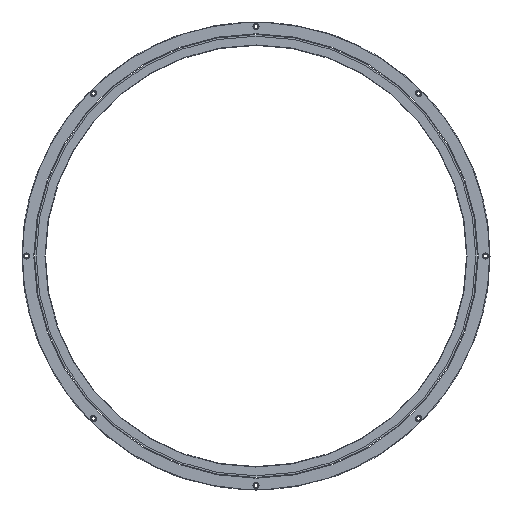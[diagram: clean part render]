
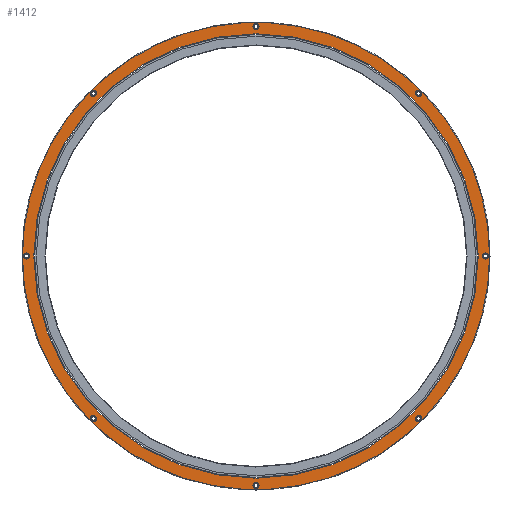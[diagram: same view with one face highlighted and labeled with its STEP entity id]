
A CAD part, front view. The second image highlights one B-rep face of the part: STEP entity #1412.
In plain terms, the highlighted planar face has unit normal (0, -1, 0).
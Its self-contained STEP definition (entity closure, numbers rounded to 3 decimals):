
#61=CARTESIAN_POINT('',(0.,0.,0.));
#62=DIRECTION('',(0.,-1.,0.));
#63=DIRECTION('',(-1.,0.,0.));
#64=AXIS2_PLACEMENT_3D('',#61,#62,#63);
#66=CARTESIAN_POINT('',(0.,0.,0.));
#67=DIRECTION('',(0.,1.,0.));
#68=DIRECTION('',(-1.,0.,0.));
#69=AXIS2_PLACEMENT_3D('',#66,#67,#68);
#71=CARTESIAN_POINT('',(-245.5,0.,0.));
#72=DIRECTION('',(0.,1.,0.));
#73=DIRECTION('',(1.,0.,0.));
#74=AXIS2_PLACEMENT_3D('',#71,#72,#73);
#76=CARTESIAN_POINT('',(-245.5,0.,0.));
#77=DIRECTION('',(0.,1.,0.));
#78=DIRECTION('',(-1.,0.,0.));
#79=AXIS2_PLACEMENT_3D('',#76,#77,#78);
#81=CARTESIAN_POINT('',(-173.595,0.,173.595));
#82=DIRECTION('',(0.,1.,0.));
#83=DIRECTION('',(0.707,0.,-0.707));
#84=AXIS2_PLACEMENT_3D('',#81,#82,#83);
#86=CARTESIAN_POINT('',(-173.595,0.,173.595));
#87=DIRECTION('',(0.,1.,0.));
#88=DIRECTION('',(-0.707,0.,0.707));
#89=AXIS2_PLACEMENT_3D('',#86,#87,#88);
#91=CARTESIAN_POINT('',(0.,0.,245.5));
#92=DIRECTION('',(0.,1.,0.));
#93=DIRECTION('',(0.,0.,-1.));
#94=AXIS2_PLACEMENT_3D('',#91,#92,#93);
#96=CARTESIAN_POINT('',(0.,0.,245.5));
#97=DIRECTION('',(0.,1.,0.));
#98=DIRECTION('',(0.,0.,1.));
#99=AXIS2_PLACEMENT_3D('',#96,#97,#98);
#101=CARTESIAN_POINT('',(173.595,0.,173.595));
#102=DIRECTION('',(0.,1.,0.));
#103=DIRECTION('',(-0.707,0.,-0.707));
#104=AXIS2_PLACEMENT_3D('',#101,#102,#103);
#106=CARTESIAN_POINT('',(173.595,0.,173.595));
#107=DIRECTION('',(0.,1.,0.));
#108=DIRECTION('',(0.707,0.,0.707));
#109=AXIS2_PLACEMENT_3D('',#106,#107,#108);
#111=CARTESIAN_POINT('',(245.5,0.,0.));
#112=DIRECTION('',(0.,1.,0.));
#113=DIRECTION('',(-1.,0.,0.));
#114=AXIS2_PLACEMENT_3D('',#111,#112,#113);
#116=CARTESIAN_POINT('',(245.5,0.,0.));
#117=DIRECTION('',(0.,1.,0.));
#118=DIRECTION('',(1.,0.,0.));
#119=AXIS2_PLACEMENT_3D('',#116,#117,#118);
#121=CARTESIAN_POINT('',(173.595,0.,-173.595));
#122=DIRECTION('',(0.,1.,0.));
#123=DIRECTION('',(-0.707,0.,0.707));
#124=AXIS2_PLACEMENT_3D('',#121,#122,#123);
#126=CARTESIAN_POINT('',(173.595,0.,-173.595));
#127=DIRECTION('',(0.,1.,0.));
#128=DIRECTION('',(0.707,0.,-0.707));
#129=AXIS2_PLACEMENT_3D('',#126,#127,#128);
#131=CARTESIAN_POINT('',(0.,0.,-245.5));
#132=DIRECTION('',(0.,1.,0.));
#133=DIRECTION('',(0.,0.,1.));
#134=AXIS2_PLACEMENT_3D('',#131,#132,#133);
#136=CARTESIAN_POINT('',(0.,0.,-245.5));
#137=DIRECTION('',(0.,1.,0.));
#138=DIRECTION('',(0.,0.,-1.));
#139=AXIS2_PLACEMENT_3D('',#136,#137,#138);
#141=CARTESIAN_POINT('',(-173.595,0.,-173.595));
#142=DIRECTION('',(0.,1.,0.));
#143=DIRECTION('',(0.707,0.,0.707));
#144=AXIS2_PLACEMENT_3D('',#141,#142,#143);
#146=CARTESIAN_POINT('',(-173.595,0.,-173.595));
#147=DIRECTION('',(0.,1.,0.));
#148=DIRECTION('',(-0.707,0.,-0.707));
#149=AXIS2_PLACEMENT_3D('',#146,#147,#148);
#151=CARTESIAN_POINT('',(0.,0.,0.));
#152=DIRECTION('',(0.,1.,0.));
#153=DIRECTION('',(-1.,0.,0.));
#154=AXIS2_PLACEMENT_3D('',#151,#152,#153);
#156=CARTESIAN_POINT('',(0.,0.,0.));
#157=DIRECTION('',(0.,1.,0.));
#158=DIRECTION('',(1.,0.,0.));
#159=AXIS2_PLACEMENT_3D('',#156,#157,#158);
#1087=CARTESIAN_POINT('',(-242.25,0.,0.));
#1088=VERTEX_POINT('',#1087);
#1089=CARTESIAN_POINT('',(-248.75,0.,0.));
#1090=VERTEX_POINT('',#1089);
#1099=CARTESIAN_POINT('',(-171.297,0.,171.297));
#1100=VERTEX_POINT('',#1099);
#1101=CARTESIAN_POINT('',(-175.893,0.,175.893));
#1102=VERTEX_POINT('',#1101);
#1111=CARTESIAN_POINT('',(0.,0.,242.25));
#1112=VERTEX_POINT('',#1111);
#1113=CARTESIAN_POINT('',(0.,0.,248.75));
#1114=VERTEX_POINT('',#1113);
#1123=CARTESIAN_POINT('',(171.297,0.,171.297));
#1124=VERTEX_POINT('',#1123);
#1125=CARTESIAN_POINT('',(175.893,0.,175.893));
#1126=VERTEX_POINT('',#1125);
#1144=CARTESIAN_POINT('',(-237.4,0.,0.));
#1146=VERTEX_POINT('',#1144);
#1148=CARTESIAN_POINT('',(237.4,0.,0.));
#1150=VERTEX_POINT('',#1148);
#1163=CARTESIAN_POINT('',(-249.5,0.,0.));
#1164=CARTESIAN_POINT('',(249.5,0.,0.));
#1165=VERTEX_POINT('',#1163);
#1166=VERTEX_POINT('',#1164);
#1187=CARTESIAN_POINT('',(242.25,0.,0.));
#1188=CARTESIAN_POINT('',(248.75,0.,0.));
#1189=VERTEX_POINT('',#1187);
#1190=VERTEX_POINT('',#1188);
#1199=CARTESIAN_POINT('',(171.297,0.,-171.297));
#1200=CARTESIAN_POINT('',(175.893,0.,-175.893));
#1201=VERTEX_POINT('',#1199);
#1202=VERTEX_POINT('',#1200);
#1259=CARTESIAN_POINT('',(0.,0.,-242.25));
#1260=CARTESIAN_POINT('',(0.,0.,-248.75));
#1261=VERTEX_POINT('',#1259);
#1262=VERTEX_POINT('',#1260);
#1271=CARTESIAN_POINT('',(-171.297,0.,-171.297));
#1272=CARTESIAN_POINT('',(-175.893,0.,-175.893));
#1273=VERTEX_POINT('',#1271);
#1274=VERTEX_POINT('',#1272);
#1349=CARTESIAN_POINT('',(0.,0.,0.));
#1350=DIRECTION('',(0.,1.,0.));
#1351=DIRECTION('',(1.,0.,0.));
#1352=AXIS2_PLACEMENT_3D('',#1349,#1350,#1351);
#1353=PLANE('',#1352);
#1355=ORIENTED_EDGE('',*,*,#1354,.T.);
#1357=ORIENTED_EDGE('',*,*,#1356,.T.);
#1358=EDGE_LOOP('',(#1355,#1357));
#1359=FACE_OUTER_BOUND('',#1358,.F.);
#1361=ORIENTED_EDGE('',*,*,#1360,.F.);
#1363=ORIENTED_EDGE('',*,*,#1362,.F.);
#1364=EDGE_LOOP('',(#1361,#1363));
#1365=FACE_BOUND('',#1364,.F.);
#1367=ORIENTED_EDGE('',*,*,#1366,.F.);
#1369=ORIENTED_EDGE('',*,*,#1368,.F.);
#1370=EDGE_LOOP('',(#1367,#1369));
#1371=FACE_BOUND('',#1370,.F.);
#1373=ORIENTED_EDGE('',*,*,#1372,.F.);
#1375=ORIENTED_EDGE('',*,*,#1374,.F.);
#1376=EDGE_LOOP('',(#1373,#1375));
#1377=FACE_BOUND('',#1376,.F.);
#1379=ORIENTED_EDGE('',*,*,#1378,.F.);
#1381=ORIENTED_EDGE('',*,*,#1380,.F.);
#1382=EDGE_LOOP('',(#1379,#1381));
#1383=FACE_BOUND('',#1382,.F.);
#1385=ORIENTED_EDGE('',*,*,#1384,.F.);
#1387=ORIENTED_EDGE('',*,*,#1386,.F.);
#1388=EDGE_LOOP('',(#1385,#1387));
#1389=FACE_BOUND('',#1388,.F.);
#1391=ORIENTED_EDGE('',*,*,#1390,.F.);
#1393=ORIENTED_EDGE('',*,*,#1392,.F.);
#1394=EDGE_LOOP('',(#1391,#1393));
#1395=FACE_BOUND('',#1394,.F.);
#1397=ORIENTED_EDGE('',*,*,#1396,.F.);
#1399=ORIENTED_EDGE('',*,*,#1398,.F.);
#1400=EDGE_LOOP('',(#1397,#1399));
#1401=FACE_BOUND('',#1400,.F.);
#1403=ORIENTED_EDGE('',*,*,#1402,.F.);
#1405=ORIENTED_EDGE('',*,*,#1404,.F.);
#1406=EDGE_LOOP('',(#1403,#1405));
#1407=FACE_BOUND('',#1406,.F.);
#1408=ORIENTED_EDGE('',*,*,#1344,.T.);
#1409=ORIENTED_EDGE('',*,*,#1328,.F.);
#1410=EDGE_LOOP('',(#1408,#1409));
#1411=FACE_BOUND('',#1410,.F.);
#65=CIRCLE('',#64,237.4);
#70=CIRCLE('',#69,237.4);
#75=CIRCLE('',#74,3.25);
#80=CIRCLE('',#79,3.25);
#85=CIRCLE('',#84,3.25);
#90=CIRCLE('',#89,3.25);
#95=CIRCLE('',#94,3.25);
#100=CIRCLE('',#99,3.25);
#105=CIRCLE('',#104,3.25);
#110=CIRCLE('',#109,3.25);
#115=CIRCLE('',#114,3.25);
#120=CIRCLE('',#119,3.25);
#125=CIRCLE('',#124,3.25);
#130=CIRCLE('',#129,3.25);
#135=CIRCLE('',#134,3.25);
#140=CIRCLE('',#139,3.25);
#145=CIRCLE('',#144,3.25);
#150=CIRCLE('',#149,3.25);
#155=CIRCLE('',#154,249.5);
#160=CIRCLE('',#159,249.5);
#1328=EDGE_CURVE('',#1146,#1150,#70,.T.);
#1344=EDGE_CURVE('',#1146,#1150,#65,.T.);
#1354=EDGE_CURVE('',#1165,#1166,#155,.T.);
#1356=EDGE_CURVE('',#1166,#1165,#160,.T.);
#1360=EDGE_CURVE('',#1088,#1090,#75,.T.);
#1362=EDGE_CURVE('',#1090,#1088,#80,.T.);
#1366=EDGE_CURVE('',#1100,#1102,#85,.T.);
#1368=EDGE_CURVE('',#1102,#1100,#90,.T.);
#1372=EDGE_CURVE('',#1112,#1114,#95,.T.);
#1374=EDGE_CURVE('',#1114,#1112,#100,.T.);
#1378=EDGE_CURVE('',#1124,#1126,#105,.T.);
#1380=EDGE_CURVE('',#1126,#1124,#110,.T.);
#1384=EDGE_CURVE('',#1189,#1190,#115,.T.);
#1386=EDGE_CURVE('',#1190,#1189,#120,.T.);
#1390=EDGE_CURVE('',#1201,#1202,#125,.T.);
#1392=EDGE_CURVE('',#1202,#1201,#130,.T.);
#1396=EDGE_CURVE('',#1261,#1262,#135,.T.);
#1398=EDGE_CURVE('',#1262,#1261,#140,.T.);
#1402=EDGE_CURVE('',#1273,#1274,#145,.T.);
#1404=EDGE_CURVE('',#1274,#1273,#150,.T.);
#1412=ADVANCED_FACE('',(#1359,#1365,#1371,#1377,#1383,#1389,#1395,#1401,#1407,
#1411),#1353,.F.);
